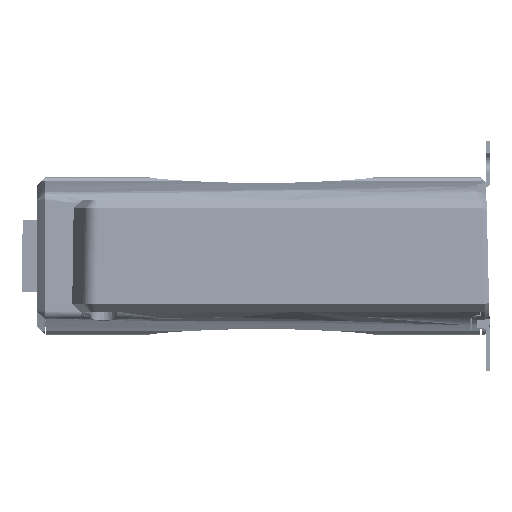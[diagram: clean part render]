
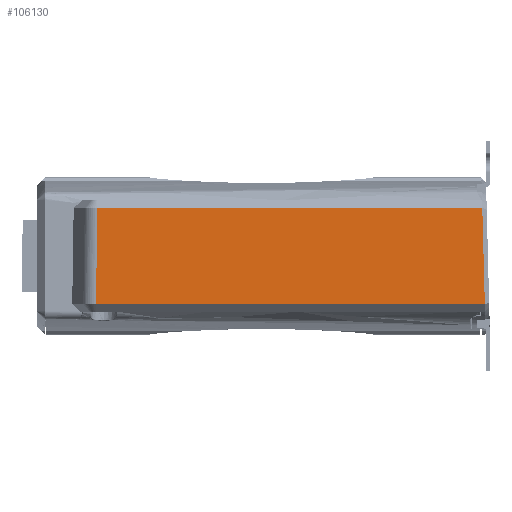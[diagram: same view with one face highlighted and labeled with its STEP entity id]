
A CAD part, left-side view. The second image highlights one B-rep face of the part: STEP entity #106130.
In plain terms, the highlighted planar face has unit normal (-1, 0, 0.026).
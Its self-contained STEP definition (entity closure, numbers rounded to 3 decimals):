
#5767 = CARTESIAN_POINT ( 'NONE',  ( -74.565, -75.51, 16.501 ) ) ;
#7140 = LINE ( 'NONE', #81763, #7502 ) ;
#7502 = VECTOR ( 'NONE', #156352, 1000. ) ;
#15992 = CARTESIAN_POINT ( 'NONE',  ( -74.566, -75.511, 16.462 ) ) ;
#19786 = VERTEX_POINT ( 'NONE', #178283 ) ;
#25988 = VERTEX_POINT ( 'NONE', #225678 ) ;
#36325 = DIRECTION ( 'NONE',  ( 0., 1., 0. ) ) ;
#47371 = VERTEX_POINT ( 'NONE', #5767 ) ;
#49573 = CARTESIAN_POINT ( 'NONE',  ( -75.43, -74.94, -16.501 ) ) ;
#50392 = CARTESIAN_POINT ( 'NONE',  ( -74.5, 0., 19. ) ) ;
#72619 = VECTOR ( 'NONE', #36325, 1000. ) ;
#74318 = CARTESIAN_POINT ( 'NONE',  ( -74.565, 56.152, 16.501 ) ) ;
#81763 = CARTESIAN_POINT ( 'NONE',  ( -74.478, 56.101, 19.848 ) ) ;
#90572 = DIRECTION ( 'NONE',  ( 0.026, 0.026, 0.999 ) ) ;
#102299 = EDGE_CURVE ( 'NONE', #25988, #47371, #183519, .T. ) ;
#106130 = ADVANCED_FACE ( 'NONE', ( #143273 ), #217805, .T. ) ;
#110225 = ORIENTED_EDGE ( 'NONE', *, *, #191633, .T. ) ;
#114120 = VERTEX_POINT ( 'NONE', #74318 ) ;
#124007 = DIRECTION ( 'NONE',  ( 0., -1., 0. ) ) ;
#124872 = DIRECTION ( 'NONE',  ( -1., 0., 0.026 ) ) ;
#125476 = VECTOR ( 'NONE', #90572, 1000. ) ;
#129140 = LINE ( 'NONE', #203699, #72619 ) ;
#132242 = VECTOR ( 'NONE', #124007, 1000. ) ;
#138185 = ORIENTED_EDGE ( 'NONE', *, *, #102299, .T. ) ;
#143273 = FACE_OUTER_BOUND ( 'NONE', #177047, .T. ) ;
#152955 = ORIENTED_EDGE ( 'NONE', *, *, #208202, .T. ) ;
#156352 = DIRECTION ( 'NONE',  ( -0.026, 0.015, -1. ) ) ;
#171950 = ORIENTED_EDGE ( 'NONE', *, *, #176773, .T. ) ;
#176773 = EDGE_CURVE ( 'NONE', #114120, #19786, #7140, .T. ) ;
#177047 = EDGE_LOOP ( 'NONE', ( #110225, #138185, #152955, #171950 ) ) ;
#178283 = CARTESIAN_POINT ( 'NONE',  ( -75.43, 56.651, -16.501 ) ) ;
#183519 = LINE ( 'NONE', #15992, #125476 ) ;
#191633 = EDGE_CURVE ( 'NONE', #19786, #25988, #216958, .T. ) ;
#199443 = DIRECTION ( 'NONE',  ( 0.026, 0., 1. ) ) ;
#203699 = CARTESIAN_POINT ( 'NONE',  ( -74.565, 0., 16.501 ) ) ;
#208202 = EDGE_CURVE ( 'NONE', #47371, #114120, #129140, .T. ) ;
#212020 = AXIS2_PLACEMENT_3D ( 'NONE', #50392, #124872, #199443 ) ;
#216958 = LINE ( 'NONE', #49573, #132242 ) ;
#217805 = PLANE ( 'NONE',  #212020 ) ;
#225678 = CARTESIAN_POINT ( 'NONE',  ( -75.43, -76.374, -16.501 ) ) ;
